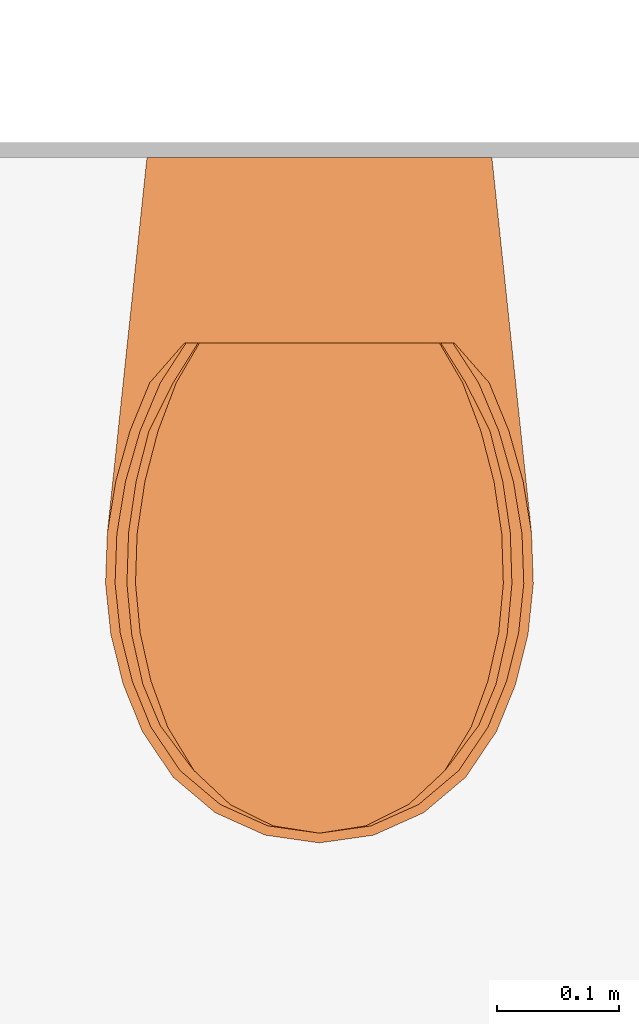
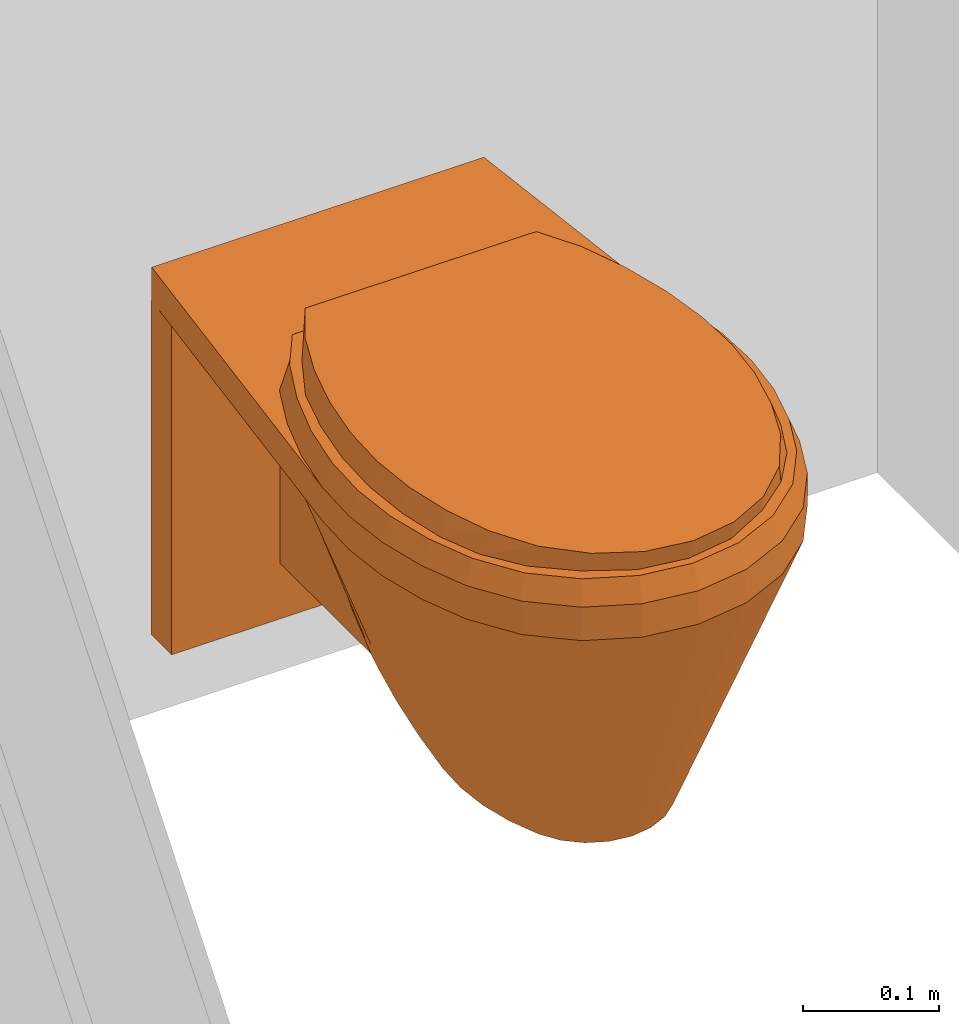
# One storey, part 92 of 99: 1 proxy.
"""IFC2X3 building model written with IfcOpenShell, lengths in millimetres."""

from ifc_helpers import new_model, entity, si_unit, converted_unit, derived_unit, money_unit, direction, frame, origin_with_axes, place, context, subcontext, project, spatial, open_shell, faceted_brep, surface_model, source, transform, mapped, type_object, type_shapes, element, save


model = new_model("IFC2X3")

# Units and contexts
model_context = context("Model", 3, precision=0.01, world=origin_with_axes(), true_north=direction((0.0, 1.0)))
body_context = subcontext(model_context, "Body", "Model", "MODEL_VIEW")
ifc_project = project(units=[si_unit("LENGTHUNIT", "METRE", prefix="MILLI"), si_unit("AREAUNIT", "SQUARE_METRE"), si_unit("VOLUMEUNIT", "CUBIC_METRE"), converted_unit("PLANEANGLEUNIT", "DEGREE", entity("IfcPlaneAngleMeasure", 0.0174532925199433), si_unit("PLANEANGLEUNIT", "RADIAN"), dimensions=[0, 0, 0, 0, 0, 0, 0]), money_unit("EUR"), converted_unit("TIMEUNIT", "Year", entity("IfcTimeMeasure", 31557600.0), si_unit("TIMEUNIT", "SECOND"), dimensions=[0, 0, 1, 0, 0, 0, 0]), si_unit("MASSUNIT", "GRAM", prefix="KILO"), si_unit("THERMODYNAMICTEMPERATUREUNIT", "DEGREE_CELSIUS"), si_unit("LUMINOUSINTENSITYUNIT", "LUMEN"), si_unit("ENERGYUNIT", "JOULE", prefix="MEGA"), derived_unit("THERMALCONDUCTANCEUNIT", [(si_unit("POWERUNIT", "WATT"), 1), (si_unit("LENGTHUNIT", "METRE"), -1), (si_unit("THERMODYNAMICTEMPERATUREUNIT", "KELVIN"), -1)]), derived_unit("SPECIFICHEATCAPACITYUNIT", [(si_unit("ENERGYUNIT", "JOULE"), 1), (si_unit("MASSUNIT", "GRAM", prefix="KILO"), -1), (si_unit("THERMODYNAMICTEMPERATUREUNIT", "KELVIN"), -1)]), derived_unit("MASSDENSITYUNIT", [(si_unit("MASSUNIT", "GRAM", prefix="KILO"), 1), (si_unit("VOLUMEUNIT", "CUBIC_METRE"), -1)])], contexts=[model_context])

# Site, building, storey
site_placement = place(None, origin_with_axes())
site = spatial("IfcSite", under=ifc_project, at=site_placement, Name="Site", CompositionType="ELEMENT")
building_placement = place(site_placement, origin_with_axes())
building = spatial("IfcBuilding", under=site, at=building_placement, Name="Naam gebouw", CompositionType="ELEMENT")
storey_placement = place(building_placement, frame((0.0, 0.0, 7650.0), z_axis=(0.0, 0.0, 1.0), x_axis=(1.0, 0.0, 0.0)))
storey = spatial("IfcBuildingStorey", under=building, at=storey_placement, Name="2e verdieping N", CompositionType="ELEMENT", Elevation=7650.0)

# Proxy
building_element_proxy_type = type_object("IfcBuildingElementProxyType", Name="Toilet 27", PredefinedType="NOTDEFINED")
shared_shape = source(origin_with_axes(), body_context, "Body", "SurfaceModel", [
    faceted_brep([(141.0283315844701, -29.31865370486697, 69.99999999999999), (-141.0283315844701, -29.31865370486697, 69.99999999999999), (-141.0283315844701, 0.4949050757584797, 69.99999999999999), (141.0283315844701, 0.4949050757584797, 69.99999999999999), (141.0283315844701, -29.31865370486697, 370.0), (-141.0283315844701, -29.31865370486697, 370.0), (-141.0283315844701, 0.4949050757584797, 370.0), (141.0283315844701, 0.4949050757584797, 370.0)], [[[0, 1, 2, 3]], [[1, 0, 4, 5]], [[2, 1, 5, 6]], [[3, 2, 6, 7]], [[0, 3, 7, 4]], [[5, 4, 7, 6]]]),
    faceted_brep([(0.0, -70.89167385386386, 370.0), (29.22322490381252, -74.34010881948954, 370.0), (48.96817068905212, -81.5929972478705, 370.0), (48.96817068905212, -29.31865370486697, 370.0), (-48.96817068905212, -29.31865370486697, 370.0), (-48.96817068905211, -81.5929972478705, 370.0), (-29.22322490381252, -74.34010881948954, 370.0), (13.70129415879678, -104.9506834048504, 120.0), (48.96817068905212, -91.42153264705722, 305.9289314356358), (25.9903462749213, -111.5027098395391, 120.0), (48.96817068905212, -132.9294031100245, 150.8349994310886), (48.96817068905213, -162.8654130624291, 120.0), (48.96817068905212, -29.31865370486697, 120.0), (48.96817068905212, -98.32654517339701, 277.0091093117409), (48.96817068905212, -115.6023982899, 192.7960154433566), (48.96817068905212, -128.1614437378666, 166.4745945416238), (-48.96817068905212, -29.31865370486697, 120.0), (-48.96817068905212, -88.2509938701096, 324.1614695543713), (-48.96817068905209, -162.865413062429, 120.0), (-48.96817068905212, -136.958898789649, 141.3134093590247), (-48.96817068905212, -132.9294031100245, 150.8349994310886), (-48.96817068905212, -121.830119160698, 170.4964192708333), (-48.96817068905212, -115.6023982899, 192.7960154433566), (-48.96817068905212, -107.0876370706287, 223.4625696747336), (-48.96817068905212, -91.42153264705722, 305.9289314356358), (-13.70129415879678, -104.9506834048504, 120.0), (0.0, -102.6888280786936, 120.0), (35.59888072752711, -121.6691333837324, 120.0), (41.53676110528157, -134.4015105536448, 120.0), (-41.53676110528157, -134.4015105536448, 120.0), (-25.9903462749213, -111.5027098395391, 120.0), (-35.59888072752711, -121.6691333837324, 120.0)], [[[0, 1, 2, 3, 4, 5, 6]], [[1, 0, 7]], [[8, 2, 1, 9]], [[10, 11, 12, 3, 2, 8, 13, 14, 15]], [[3, 12, 16, 4]], [[17, 5, 4, 16, 18, 19, 20, 21, 22, 23, 24]], [[6, 5, 17, 25]], [[0, 6, 26]], [[26, 7, 0]], [[7, 9, 1]], [[13, 8, 9, 27]], [[11, 10, 28]], [[29, 18, 16, 12, 11, 28, 27, 9, 7, 26, 25, 30, 31]], [[14, 13, 27]], [[15, 14, 27, 28]], [[10, 15, 28]], [[18, 29, 19]], [[20, 19, 29]], [[29, 31, 21, 20]], [[22, 21, 31]], [[31, 30, 23, 22]], [[24, 23, 30]], [[30, 25, 17, 24]], [[25, 26, 6]]]),
    surface_model("IfcShellBasedSurfaceModel", [(17.69122070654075, -459.020482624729, 120.0), (34.02798181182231, -451.6883347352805, 120.0), (85.18209164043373, -535.3680377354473, 370.0), (0.0, -461.5278029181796, 120.0), (-17.69122070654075, -459.020482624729, 120.0), (-34.02798181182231, -451.6883347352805, 120.0), (-47.75865687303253, -440.0938417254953, 120.0), (-57.83238894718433, -425.1254476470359, 120.0), (-68.23029031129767, -399.4182096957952, 120.0), (-74.94382651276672, -372.4786779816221, 120.0), (-77.83882476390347, -344.8464779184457, 120.0), (-76.85750262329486, -317.0761416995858, 120.0), (-70.97348723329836, -270.8651255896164, 120.0), (-63.11507520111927, -224.9582077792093, 120.0), (-53.29597761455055, -179.4418475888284, 120.0), (-41.53676110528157, -134.4015105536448, 120.0), (-35.59888072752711, -121.6691333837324, 120.0), (-25.9903462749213, -111.5027098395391, 120.0), (-13.70129415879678, -104.9506834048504, 120.0), (0.0, -102.6888280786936, 120.0), (13.70129415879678, -104.9506834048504, 120.0), (25.9903462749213, -111.5027098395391, 120.0), (35.59888072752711, -121.6691333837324, 120.0), (41.53676110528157, -134.4015105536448, 120.0), (53.29597761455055, -179.4418475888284, 120.0), (63.11507520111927, -224.9582077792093, 120.0), (70.97348723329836, -270.8651255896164, 120.0), (76.85750262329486, -317.0761416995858, 120.0), (77.83882476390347, -344.845484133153, 120.0), (74.94382651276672, -372.4786779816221, 120.0), (68.23029031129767, -399.4182096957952, 120.0), (57.83238894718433, -425.1254476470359, 120.0), (47.75865687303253, -440.0938417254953, 120.0), (119.554809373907, -506.3435444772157, 370.0), (44.28681357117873, -553.722258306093, 370.0), (0.0, -560.0, 370.0), (-44.28681357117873, -553.722258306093, 370.0), (-85.18209164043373, -535.3680377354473, 370.0), (-119.554809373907, -506.3435444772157, 370.0), (-144.7734172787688, -468.8718762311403, 370.0), (-160.3893669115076, -430.2603362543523, 370.0), (-170.4738719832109, -389.7973742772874, 370.0), (-174.8222455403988, -348.2949128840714, 370.0), (-173.3473242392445, -306.5847503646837, 370.0), (-164.8111927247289, -257.295981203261, 370.0), (-149.8396642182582, -209.614162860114, 370.0), (-128.7050017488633, -164.3989196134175, 370.0), (-101.7881776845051, -122.4661491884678, 370.0), (-81.51241692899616, -100.8344247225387, 370.0), (-56.88632388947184, -84.50156343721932, 370.0), (-29.22322490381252, -74.34010881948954, 370.0), (0.0, -70.89167385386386, 370.0), (29.22322490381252, -74.34010881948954, 370.0), (56.88632388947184, -84.50156343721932, 370.0), (81.51241692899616, -100.8344247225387, 370.0), (101.7881776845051, -122.4661491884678, 370.0), (128.7050017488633, -164.3989196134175, 370.0), (149.8396642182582, -209.614162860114, 370.0), (164.8111927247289, -257.2969749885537, 370.0), (173.3473242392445, -306.5847503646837, 370.0), (174.8222455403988, -348.2949128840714, 370.0), (170.4738719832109, -389.7973742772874, 370.0), (160.3903462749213, -430.2603362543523, 370.0), (144.7734172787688, -468.8718762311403, 370.0)], [open_shell([[[0, 1, 2]], [[0, 3, 4, 5, 6, 7, 8, 9, 10, 11, 12, 13, 14, 15, 16, 17, 18, 19, 20, 21, 22, 23, 24, 25, 26, 27, 28, 29, 30, 31, 32, 1]], [[1, 33, 2]], [[0, 2, 34]], [[3, 0, 34]], [[4, 3, 35]], [[5, 4, 36]], [[6, 5, 37]], [[7, 6, 38]], [[8, 7, 39]], [[9, 8, 40]], [[10, 9, 41]], [[11, 10, 42]], [[12, 11, 43]], [[13, 12, 44]], [[14, 13, 45]], [[15, 14, 46]], [[16, 15, 47]], [[17, 16, 48]], [[18, 17, 49]], [[19, 18, 50]], [[20, 19, 51]], [[21, 20, 52]], [[22, 21, 53]], [[23, 22, 54]], [[24, 23, 55]], [[25, 24, 56]], [[26, 25, 57]], [[27, 26, 58]], [[28, 27, 59]], [[29, 28, 60]], [[30, 29, 61]], [[31, 30, 62]], [[32, 31, 63]], [[1, 32, 33]], [[3, 34, 35]], [[4, 35, 36]], [[5, 36, 37]], [[6, 37, 38]], [[7, 38, 39]], [[8, 39, 40]], [[9, 40, 41]], [[10, 41, 42]], [[11, 42, 43]], [[12, 43, 44]], [[13, 44, 45]], [[14, 45, 46]], [[15, 46, 47]], [[16, 47, 48]], [[17, 48, 49]], [[18, 49, 50]], [[19, 50, 51]], [[20, 51, 52]], [[21, 52, 53]], [[22, 53, 54]], [[23, 54, 55]], [[24, 55, 56]], [[25, 56, 57]], [[26, 57, 58]], [[27, 58, 59]], [[28, 59, 60]], [[29, 60, 61]], [[30, 61, 62]], [[31, 62, 63]], [[32, 63, 33]]])]),
    faceted_brep([(-173.3473242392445, -306.5847503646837, 370.0), (-174.8222455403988, -348.2949128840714, 370.0), (-174.8222455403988, -348.2949128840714, 400.0), (-173.3473242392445, -306.5847503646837, 400.0), (-140.9734872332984, 0.0, 370.0), (140.975445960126, 0.0, 370.0), (173.3473242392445, -306.5847503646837, 370.0), (174.8222455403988, -348.2949128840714, 370.0), (170.4738719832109, -389.7973742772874, 370.0), (160.3903462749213, -430.2603362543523, 370.0), (144.7734172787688, -468.8718762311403, 370.0), (119.554809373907, -506.3435444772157, 370.0), (85.18209164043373, -535.3680377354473, 370.0), (44.28681357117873, -553.722258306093, 370.0), (0.0, -560.0, 370.0), (-44.28681357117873, -553.722258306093, 370.0), (-85.18209164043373, -535.3680377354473, 370.0), (-119.554809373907, -506.3435444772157, 370.0), (-144.7734172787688, -468.8718762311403, 370.0), (-160.3893669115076, -430.2603362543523, 370.0), (-170.4738719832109, -389.7973742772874, 370.0), (144.5021336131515, -309.7211367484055, 370.0), (129.3885974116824, -258.2838037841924, 370.0), (97.13522210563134, -215.7418429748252, 370.0), (52.01301154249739, -187.731010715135, 370.0), (0.0, -177.9630950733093, 370.0), (-52.01301154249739, -187.731010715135, 370.0), (-97.13522210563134, -215.7418429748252, 370.0), (-129.3885974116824, -258.2838037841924, 370.0), (-144.5021336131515, -309.7211367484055, 370.0), (-145.8291710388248, -347.2633637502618, 370.0), (-141.914655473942, -384.6197529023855, 370.0), (-132.838894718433, -421.0399963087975, 370.0), (-118.7820916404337, -455.7936617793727, 370.0), (-98.09206016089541, -486.5383973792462, 370.0), (-69.89031129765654, -510.3524743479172, 370.0), (-36.33634137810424, -525.411302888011, 370.0), (0.0, -530.5620920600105, 370.0), (36.33634137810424, -525.411302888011, 370.0), (69.89031129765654, -510.3524743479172, 370.0), (98.09206016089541, -486.5383973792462, 370.0), (118.7820916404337, -455.7936617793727, 370.0), (132.838894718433, -421.0399963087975, 370.0), (141.914655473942, -384.6197529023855, 370.0), (145.8291710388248, -347.2633637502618, 370.0), (-170.4738719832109, -389.7973742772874, 400.0), (-160.3893669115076, -430.2603362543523, 400.0), (-144.7734172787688, -468.8718762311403, 400.0), (-119.554809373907, -506.3435444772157, 400.0), (-85.18209164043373, -535.3680377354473, 400.0), (-44.28681357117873, -553.722258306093, 400.0), (0.0, -560.0, 400.0), (44.28681357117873, -553.722258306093, 400.0), (85.18209164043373, -535.3680377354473, 400.0), (119.554809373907, -506.3435444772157, 400.0), (144.7734172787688, -468.8718762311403, 400.0), (160.3903462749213, -430.2603362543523, 400.0), (170.4738719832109, -389.7973742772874, 400.0), (174.8222455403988, -348.2949128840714, 400.0), (173.3473242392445, -306.5847503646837, 400.0), (140.975445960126, 0.0, 400.0), (-140.9734872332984, 0.0, 400.0), (144.5021336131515, -309.7211367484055, 400.0), (145.8291710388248, -347.2633637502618, 400.0), (141.914655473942, -384.6197529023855, 400.0), (132.838894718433, -421.0399963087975, 400.0), (118.7820916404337, -455.7936617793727, 400.0), (98.09206016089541, -486.5383973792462, 400.0), (69.89031129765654, -510.3524743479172, 400.0), (36.33634137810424, -525.411302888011, 400.0), (0.0, -530.5620920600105, 400.0), (-36.33634137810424, -525.411302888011, 400.0), (-69.89031129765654, -510.3524743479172, 400.0), (-98.09206016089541, -486.5383973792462, 400.0), (-118.7820916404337, -455.7936617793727, 400.0), (-132.838894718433, -421.0399963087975, 400.0), (-141.914655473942, -384.6197529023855, 400.0), (-145.8291710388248, -347.2633637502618, 400.0), (-144.5021336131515, -309.7211367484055, 400.0), (-129.3885974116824, -258.2838037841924, 400.0), (-97.13522210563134, -215.7418429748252, 400.0), (-52.01301154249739, -187.731010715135, 400.0), (0.0, -177.9630950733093, 400.0), (52.01301154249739, -187.731010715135, 400.0), (97.13522210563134, -215.7418429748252, 400.0), (129.3885974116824, -258.2838037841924, 400.0)], [[[0, 1, 2, 3]], [[0, 4, 5, 6, 7, 8, 9, 10, 11, 12, 13, 14, 15, 16, 17, 18, 19, 20, 1], [21, 22, 23, 24, 25, 26, 27, 28, 29, 30, 31, 32, 33, 34, 35, 36, 37, 38, 39, 40, 41, 42, 43, 44]], [[1, 20, 45, 2]], [[3, 2, 45, 46, 47, 48, 49, 50, 51, 52, 53, 54, 55, 56, 57, 58, 59, 60, 61], [62, 63, 64, 65, 66, 67, 68, 69, 70, 71, 72, 73, 74, 75, 76, 77, 78, 79, 80, 81, 82, 83, 84, 85]], [[4, 0, 3, 61]], [[5, 4, 61, 60]], [[6, 5, 60, 59]], [[7, 6, 59, 58]], [[8, 7, 58, 57]], [[9, 8, 57, 56]], [[10, 9, 56, 55]], [[11, 10, 55, 54]], [[12, 11, 54, 53]], [[13, 12, 53, 52]], [[14, 13, 52, 51]], [[15, 14, 51, 50]], [[16, 15, 50, 49]], [[17, 16, 49, 48]], [[18, 17, 48, 47]], [[19, 18, 47, 46]], [[20, 19, 46, 45]], [[22, 21, 62, 85]], [[23, 22, 85, 84]], [[24, 23, 84, 83]], [[25, 24, 83, 82]], [[26, 25, 82, 81]], [[27, 26, 81, 80]], [[28, 27, 80, 79]], [[29, 28, 79, 78]], [[30, 29, 78, 77]], [[31, 30, 77, 76]], [[32, 31, 76, 75]], [[33, 32, 75, 74]], [[34, 33, 74, 73]], [[35, 34, 73, 72]], [[36, 35, 72, 71]], [[37, 36, 71, 70]], [[38, 37, 70, 69]], [[39, 38, 69, 68]], [[40, 39, 68, 67]], [[41, 40, 67, 66]], [[42, 41, 66, 65]], [[43, 42, 65, 64]], [[44, 43, 64, 63]], [[21, 44, 63, 62]]]),
    surface_model("IfcShellBasedSurfaceModel", [(16.80665967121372, -465.7329258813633, 220.0), (32.3265827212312, -460.0138505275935, 220.0), (80.92298705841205, -525.2840188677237, 370.0), (0.0, -467.6886357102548, 220.0), (-16.80665967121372, -465.7329258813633, 220.0), (-32.3265827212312, -460.0138505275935, 220.0), (-45.3707240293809, -450.970145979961, 220.0), (-54.94076949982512, -439.2947985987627, 220.0), (-64.81877579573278, -419.2431529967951, 220.0), (-71.1966351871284, -398.23031825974, 220.0), (-73.9468835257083, -376.6772022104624, 220.0), (-73.01462749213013, -355.0163399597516, 220.0), (-67.42481287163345, -318.9717473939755, 220.0), (-59.95932144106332, -283.164351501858, 220.0), (-50.63117873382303, -247.6615905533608, 220.0), (-39.4599230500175, -212.5301276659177, 220.0), (-33.81893669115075, -202.598873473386, 220.0), (-24.69082896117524, -194.6690631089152, 220.0), (-13.01622945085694, -189.558482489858, 220.0), (0.0, -187.7942353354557, 220.0), (13.01622945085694, -189.558482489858, 220.0), (24.69082896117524, -194.6690631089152, 220.0), (33.81893669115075, -202.598873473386, 220.0), (39.4599230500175, -212.5301276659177, 220.0), (50.63117873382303, -247.6615905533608, 220.0), (59.95932144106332, -283.164351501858, 220.0), (67.42481287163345, -318.9717473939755, 220.0), (73.01462749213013, -355.0163399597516, 220.0), (73.9468835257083, -376.6764270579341, 220.0), (71.1966351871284, -398.23031825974, 220.0), (64.81877579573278, -419.2431529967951, 220.0), (54.94076949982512, -439.2947985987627, 220.0), (45.3707240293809, -450.970145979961, 220.0), (113.5770689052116, -502.644914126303, 370.0), (42.0724728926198, -539.6003109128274, 370.0), (0.0, -544.4969494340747, 370.0), (-42.0724728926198, -539.6003109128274, 370.0), (-80.92298705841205, -525.2840188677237, 370.0), (-113.5770689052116, -502.644914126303, 370.0), (-137.5347464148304, -473.4170128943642, 370.0), (-152.3698985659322, -443.3000117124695, 370.0), (-161.9501783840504, -411.7389013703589, 370.0), (-166.0811332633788, -379.3669814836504, 370.0), (-164.6799580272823, -346.833054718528, 370.0), (-156.5706330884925, -308.3878147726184, 370.0), (-142.3476810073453, -271.1959964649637, 370.0), (-122.2697516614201, -235.9281067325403, 370.0), (-96.69876880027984, -203.2205458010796, 370.0), (-77.43679608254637, -186.3478007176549, 370.0), (-54.04200769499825, -173.6081689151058, 370.0), (-27.7620636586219, -165.6822343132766, 370.0), (0.0, -162.9924550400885, 370.0), (27.7620636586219, -165.6822343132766, 370.0), (54.04200769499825, -173.6081689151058, 370.0), (77.43679608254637, -186.3478007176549, 370.0), (96.69876880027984, -203.2205458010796, 370.0), (122.2697516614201, -235.9281067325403, 370.0), (142.3476810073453, -271.1959964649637, 370.0), (156.5706330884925, -308.3885899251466, 370.0), (164.6799580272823, -346.833054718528, 370.0), (166.0811332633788, -379.3669814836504, 370.0), (161.9501783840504, -411.7389013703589, 370.0), (152.3708289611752, -443.3000117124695, 370.0), (137.5347464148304, -473.4170128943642, 370.0)], [open_shell([[[0, 1, 2]], [[0, 3, 4, 5, 6, 7, 8, 9, 10, 11, 12, 13, 14, 15, 16, 17, 18, 19, 20, 21, 22, 23, 24, 25, 26, 27, 28, 29, 30, 31, 32, 1]], [[1, 33, 2]], [[0, 2, 34]], [[3, 0, 34]], [[4, 3, 35]], [[5, 4, 36]], [[6, 5, 37]], [[7, 6, 38]], [[8, 7, 39]], [[9, 8, 40]], [[10, 9, 41]], [[11, 10, 42]], [[12, 11, 43]], [[13, 12, 44]], [[14, 13, 45]], [[15, 14, 46]], [[16, 15, 47]], [[17, 16, 48]], [[18, 17, 49]], [[19, 18, 50]], [[20, 19, 51]], [[21, 20, 52]], [[22, 21, 53]], [[23, 22, 54]], [[24, 23, 55]], [[25, 24, 56]], [[26, 25, 57]], [[27, 26, 58]], [[28, 27, 59]], [[29, 28, 60]], [[30, 29, 61]], [[31, 30, 62]], [[32, 31, 63]], [[1, 32, 33]], [[3, 34, 35]], [[4, 35, 36]], [[5, 36, 37]], [[6, 37, 38]], [[7, 38, 39]], [[8, 39, 40]], [[9, 40, 41]], [[10, 41, 42]], [[11, 42, 43]], [[12, 43, 44]], [[13, 44, 45]], [[14, 45, 46]], [[15, 46, 47]], [[16, 47, 48]], [[17, 48, 49]], [[18, 49, 50]], [[19, 50, 51]], [[20, 51, 52]], [[21, 52, 53]], [[22, 53, 54]], [[23, 54, 55]], [[24, 55, 56]], [[25, 56, 57]], [[26, 57, 58]], [[27, 58, 59]], [[28, 59, 60]], [[29, 60, 61]], [[30, 61, 62]], [[31, 62, 63]], [[32, 63, 33]]])]),
    faceted_brep([(0.0, -560.0, 400.0), (-44.28681357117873, -553.722258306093, 400.0), (-85.18209164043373, -535.3680377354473, 400.0), (-119.554809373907, -506.3435444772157, 400.0), (-144.7734172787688, -468.8718762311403, 400.0), (-160.3893669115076, -430.2603362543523, 400.0), (-170.4738719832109, -389.7973742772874, 400.0), (-174.8222455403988, -348.2949128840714, 400.0), (-173.3473242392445, -306.5847503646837, 400.0), (-166.4663168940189, -264.4263906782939, 400.0), (-154.8716334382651, -223.3443004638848, 400.0), (-138.7150752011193, -183.8810864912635, 400.0), (-110.1926579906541, -151.3163525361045, 400.0), (110.1926579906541, -151.3163525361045, 400.0), (138.7150752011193, -183.8810864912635, 400.0), (154.8716334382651, -223.3443004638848, 400.0), (166.4663168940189, -264.4263906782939, 400.0), (173.3473242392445, -306.5847503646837, 400.0), (174.8222455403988, -348.2949128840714, 400.0), (170.4738719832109, -389.7973742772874, 400.0), (160.3903462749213, -430.2603362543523, 400.0), (144.7734172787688, -468.8718762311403, 400.0), (119.554809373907, -506.3435444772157, 400.0), (85.18209164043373, -535.3680377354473, 400.0), (44.28681357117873, -553.722258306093, 400.0), (87.07689659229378, -411.9963613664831, 400.0), (94.51085540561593, -382.2763031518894, 400.0), (97.71606496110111, -351.7983255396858, 400.0), (96.61425296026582, -320.7429308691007, 400.0), (90.99294096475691, -286.7942733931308, 400.0), (81.32886310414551, -253.3381075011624, 400.0), (68.75448552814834, -223.4663237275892, 400.0), (-68.75412876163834, -223.4663237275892, 400.0), (-81.3289539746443, -253.3384220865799, 400.0), (-90.99294096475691, -286.7942733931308, 400.0), (-96.61425296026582, -320.7429308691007, 400.0), (-97.71606496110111, -351.7983255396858, 400.0), (-94.51085540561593, -382.2763031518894, 400.0), (-87.07689659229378, -411.9963613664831, 400.0), (-76.4888004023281, -438.0775703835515, 400.0), (-62.06856874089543, -459.4262123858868, 400.0), (-44.26109835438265, -474.4067566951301, 400.0), (-23.02579943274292, -483.9023013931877, 400.0), (0.0, -487.1544663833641, 400.0), (23.02579943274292, -483.9023013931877, 400.0), (44.26109835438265, -474.4067566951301, 400.0), (62.06856874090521, -459.4262123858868, 400.0), (76.4888004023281, -438.0775703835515, 400.0), (0.0, -552.0944379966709, 420.0000000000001), (-42.15180132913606, -546.1188070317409, 420.0000000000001), (-81.07562084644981, -528.649055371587, 420.0000000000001), (-113.7912556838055, -501.0248055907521, 420.0000000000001), (-137.7925148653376, -465.3598390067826, 420.0000000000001), (-152.9902763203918, -427.7848170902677, 420.0000000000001), (-162.8034977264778, -388.4070686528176, 420.0000000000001), (-167.0353270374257, -348.0176467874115, 420.0000000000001), (-165.6005596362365, -307.4274802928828, 420.0000000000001), (-158.5902763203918, -264.9332211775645, 420.0000000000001), (-146.6880727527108, -223.5758524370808, 420.0000000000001), (-130.06142007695, -183.9317695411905, 420.0000000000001), (-108.940468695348, -151.3163525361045, 420.0000000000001), (108.940468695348, -151.3163525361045, 420.0000000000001), (130.06142007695, -183.9307757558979, 420.0000000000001), (146.6880727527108, -223.5758524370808, 420.0000000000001), (158.5902763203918, -264.9332211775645, 420.0000000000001), (165.6005596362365, -307.4274802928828, 420.0000000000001), (167.0353270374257, -348.0176467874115, 420.0000000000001), (162.8034977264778, -388.4070686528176, 420.0000000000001), (152.9902763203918, -427.7848170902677, 420.0000000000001), (137.7925148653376, -465.3598390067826, 420.0000000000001), (113.7912556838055, -501.0248055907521, 420.0000000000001), (81.07562084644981, -528.649055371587, 420.0000000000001), (42.15180132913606, -546.1188070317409, 420.0000000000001), (87.07689659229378, -411.9963613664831, 420.0), (94.51085540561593, -382.2763031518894, 420.0), (97.71606496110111, -351.7983255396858, 420.0), (96.61425296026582, -320.7429308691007, 420.0), (90.99294096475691, -286.7942733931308, 420.0), (81.32886310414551, -253.3381075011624, 420.0), (68.75448552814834, -223.4663237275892, 420.0), (-68.75412876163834, -223.4663237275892, 420.0000000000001), (-81.3289539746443, -253.3384220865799, 420.0000000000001), (-90.99294096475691, -286.7942733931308, 420.0000000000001), (-96.61425296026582, -320.7429308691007, 420.0000000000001), (-97.71606496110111, -351.7983255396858, 420.0000000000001), (-94.51085540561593, -382.2763031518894, 420.0000000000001), (-87.07689659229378, -411.9963613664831, 420.0000000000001), (-76.4888004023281, -438.0775703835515, 420.0000000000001), (-62.06856874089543, -459.4262123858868, 420.0000000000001), (-44.26109835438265, -474.4067566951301, 420.0000000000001), (-23.02579943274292, -483.9023013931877, 420.0000000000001), (0.0, -487.1544663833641, 420.0), (23.02579943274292, -483.9023013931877, 420.0), (44.26109835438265, -474.4067566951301, 420.0), (62.06856874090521, -459.4262123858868, 420.0), (76.4888004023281, -438.0775703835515, 420.0)], [[[0, 1, 2, 3, 4, 5, 6, 7, 8, 9, 10, 11, 12, 13, 14, 15, 16, 17, 18, 19, 20, 21, 22, 23, 24], [25, 26, 27, 28, 29, 30, 31, 32, 33, 34, 35, 36, 37, 38, 39, 40, 41, 42, 43, 44, 45, 46, 47]], [[1, 0, 48]], [[2, 1, 49]], [[3, 2, 50]], [[4, 3, 51]], [[5, 4, 52]], [[6, 5, 53]], [[6, 54, 55, 7]], [[8, 7, 55]], [[9, 8, 56]], [[10, 9, 57]], [[11, 10, 58]], [[12, 11, 59]], [[12, 60, 61, 13]], [[14, 13, 61]], [[15, 14, 62]], [[16, 15, 63]], [[17, 16, 64]], [[18, 17, 65]], [[18, 66, 67, 19]], [[20, 19, 67]], [[20, 68, 69, 21]], [[22, 21, 69]], [[23, 22, 70]], [[24, 23, 71]], [[0, 24, 72]], [[73, 74, 26, 25]], [[74, 75, 27, 26]], [[75, 76, 28, 27]], [[76, 77, 29, 28]], [[77, 78, 30, 29]], [[78, 79, 31, 30]], [[79, 80, 32, 31]], [[80, 81, 33, 32]], [[81, 82, 34, 33]], [[82, 83, 35, 34]], [[83, 84, 36, 35]], [[84, 85, 37, 36]], [[85, 86, 38, 37]], [[86, 87, 39, 38]], [[87, 88, 40, 39]], [[88, 89, 41, 40]], [[89, 90, 42, 41]], [[90, 91, 43, 42]], [[91, 92, 44, 43]], [[92, 93, 45, 44]], [[93, 94, 46, 45]], [[94, 95, 47, 46]], [[95, 73, 25, 47]], [[0, 72, 48]], [[1, 48, 49]], [[2, 49, 50]], [[3, 50, 51]], [[4, 51, 52]], [[5, 52, 53]], [[6, 53, 54]], [[54, 53, 52, 51, 50, 49, 48, 72, 71, 70, 69, 68, 67, 66, 65, 64, 63, 62, 61, 60, 59, 58, 57, 56, 55], [77, 76, 75, 74, 73, 95, 94, 93, 92, 91, 90, 89, 88, 87, 86, 85, 84, 83, 82, 81, 80, 79, 78]], [[8, 55, 56]], [[9, 56, 57]], [[10, 57, 58]], [[11, 58, 59]], [[12, 59, 60]], [[14, 61, 62]], [[15, 62, 63]], [[16, 63, 64]], [[17, 64, 65]], [[18, 65, 66]], [[20, 67, 68]], [[22, 69, 70]], [[23, 70, 71]], [[24, 71, 72]]]),
    faceted_brep([(-107.5993284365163, -494.4181209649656, 420.0000000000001), (-76.66388247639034, -519.4674730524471, 420.0000000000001), (-72.96805876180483, -528.649055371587, 440.0000000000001), (-130.2960755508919, -463.9029497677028, 420.0000000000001), (-144.3504302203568, -430.2603362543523, 420.0000000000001), (-153.4264847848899, -389.7973742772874, 420.0000000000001), (-157.3400209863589, -348.2949128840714, 420.0000000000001), (-156.01259181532, -306.5847503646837, 420.0000000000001), (-149.819685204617, -264.4263906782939, 420.0000000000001), (-139.3844700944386, -223.3443004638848, 420.0000000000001), (-119.5550052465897, -183.8810864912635, 420.0000000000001), (-99.17339219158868, -151.3163525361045, 420.0000000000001), (99.17339219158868, -151.3163525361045, 420.0000000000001), (119.5550052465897, -183.8810864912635, 420.0000000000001), (139.3844700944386, -223.3443004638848, 420.0000000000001), (149.819685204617, -264.4263906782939, 420.0000000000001), (156.01259181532, -306.5847503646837, 420.0000000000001), (157.3400209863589, -348.2949128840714, 420.0000000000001), (153.4264847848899, -389.7973742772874, 420.0000000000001), (144.3513116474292, -430.2603362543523, 420.0000000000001), (130.2960755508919, -463.9029497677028, 420.0000000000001), (107.5993284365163, -494.4181209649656, 420.0000000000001), (76.66388247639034, -519.4674730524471, 420.0000000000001), (39.85813221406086, -538.8154789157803, 420.0000000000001), (0.0, -545.0932206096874, 420.0000000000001), (-39.85813221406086, -538.8154789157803, 420.0000000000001), (-37.93662119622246, -546.1188070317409, 440.0000000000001), (-102.412130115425, -501.0248055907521, 440.0000000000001), (-124.0132633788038, -465.3598390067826, 440.0000000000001), (-137.6912486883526, -427.7848170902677, 440.0000000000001), (-146.52314795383, -388.4070686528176, 440.0000000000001), (-150.3317943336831, -348.0176467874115, 440.0000000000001), (-149.0405036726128, -307.4274802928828, 440.0000000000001), (-142.7312486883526, -264.9332211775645, 440.0000000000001), (-132.0192654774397, -223.5758524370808, 440.0000000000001), (-117.055278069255, -183.9317695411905, 440.0000000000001), (-98.04642182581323, -151.3163525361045, 440.0000000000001), (98.04642182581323, -151.3163525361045, 440.0000000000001), (117.055278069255, -183.9307757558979, 440.0000000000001), (132.0192654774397, -223.5758524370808, 440.0000000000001), (142.7312486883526, -264.9332211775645, 440.0000000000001), (149.0405036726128, -307.4274802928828, 440.0000000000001), (150.3317943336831, -348.0176467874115, 440.0000000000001), (146.52314795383, -388.4070686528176, 440.0000000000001), (137.6912486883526, -427.7848170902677, 440.0000000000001), (124.0132633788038, -465.3598390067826, 440.0000000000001), (102.412130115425, -501.0248055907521, 440.0000000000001), (72.96805876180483, -528.649055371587, 440.0000000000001), (37.93662119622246, -546.1188070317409, 440.0000000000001), (0.0, -552.0944379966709, 440.0000000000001)], [[[0, 1, 2]], [[0, 3, 4, 5, 6, 7, 8, 9, 10, 11, 12, 13, 14, 15, 16, 17, 18, 19, 20, 21, 22, 23, 24, 25, 1]], [[1, 26, 2]], [[0, 2, 27]], [[3, 0, 27]], [[4, 3, 28]], [[5, 4, 29]], [[6, 5, 30, 31]], [[7, 6, 31]], [[8, 7, 32]], [[9, 8, 33]], [[10, 9, 34]], [[11, 10, 35]], [[12, 11, 36, 37]], [[13, 12, 37]], [[14, 13, 38]], [[15, 14, 39]], [[16, 15, 40]], [[17, 16, 41]], [[18, 17, 42, 43]], [[19, 18, 43]], [[20, 19, 44]], [[21, 20, 45]], [[22, 21, 46]], [[23, 22, 47]], [[24, 23, 48]], [[25, 24, 49]], [[1, 25, 26]], [[27, 2, 26, 49, 48, 47, 46, 45, 44, 43, 42, 41, 40, 39, 38, 37, 36, 35, 34, 33, 32, 31, 30, 29, 28]], [[3, 27, 28]], [[4, 28, 29]], [[5, 29, 30]], [[7, 31, 32]], [[8, 32, 33]], [[9, 33, 34]], [[10, 34, 35]], [[11, 35, 36]], [[13, 37, 38]], [[14, 38, 39]], [[15, 39, 40]], [[16, 40, 41]], [[17, 41, 42]], [[19, 43, 44]], [[20, 44, 45]], [[21, 45, 46]], [[22, 46, 47]], [[23, 47, 48]], [[24, 48, 49]], [[25, 49, 26]]]),
])
type_shapes(building_element_proxy_type, [shared_shape])
proxy_placement = place(storey_placement, frame((26852.99999999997, 15500.91242510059, 0.0), z_axis=(0.0, 0.0, 1.0), x_axis=(1.0, 0.0, 0.0)))
element("IfcBuildingElementProxy", 1, at=proxy_placement, inside=storey, type_object=building_element_proxy_type, Name="_Sanitair-x", context=body_context, shape_type="MappedRepresentation", body=[
    mapped(shared_shape, transform((0.0, 0.0, 0.0))),
])

save(model, "model.ifc")
